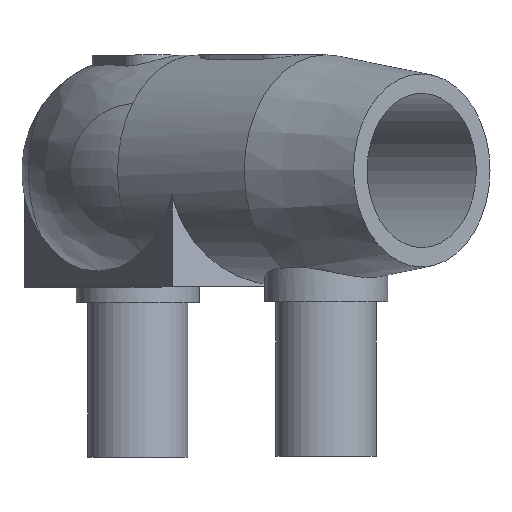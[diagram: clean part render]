
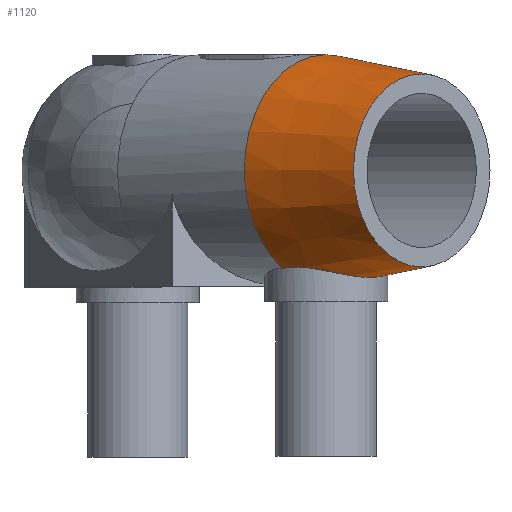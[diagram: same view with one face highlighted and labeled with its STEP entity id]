
A CAD part, top view. The second image highlights one B-rep face of the part: STEP entity #1120.
In plain terms, the highlighted conical face has half-angle 8.13 degrees and reference radius 15 mm.
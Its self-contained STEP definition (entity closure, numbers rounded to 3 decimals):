
#21=CONICAL_SURFACE('',#1238,15.,0.142);
#158=CIRCLE('',#1189,15.);
#165=CIRCLE('',#1211,12.5);
#386=ORIENTED_EDGE('',*,*,#627,.F.);
#387=ORIENTED_EDGE('',*,*,#579,.F.);
#388=ORIENTED_EDGE('',*,*,#630,.T.);
#579=EDGE_CURVE('',#736,#737,#158,.T.);
#627=EDGE_CURVE('',#737,#736,#867,.T.);
#630=EDGE_CURVE('',#777,#777,#165,.T.);
#736=VERTEX_POINT('',#2227);
#737=VERTEX_POINT('',#2229);
#777=VERTEX_POINT('',#2712);
#867=B_SPLINE_CURVE_WITH_KNOTS('',3,(#2695,#2696,#2697,#2698,#2699,#2700,
#2701,#2702,#2703,#2704,#2705),.UNSPECIFIED.,.F.,.F.,(4,1,1,1,1,1,1,1,4),
(0.007,0.01,0.014,0.017,
0.02,0.023,0.026,0.029,
0.032),.UNSPECIFIED.);
#920=EDGE_LOOP('',(#386,#387));
#921=EDGE_LOOP('',(#388));
#1027=FACE_BOUND('',#920,.T.);
#1028=FACE_BOUND('',#921,.T.);
#1120=ADVANCED_FACE('',(#1027,#1028),#21,.T.);
#1189=AXIS2_PLACEMENT_3D('',#2228,#1324,#1325);
#1211=AXIS2_PLACEMENT_3D('',#2711,#1380,#1381);
#1238=AXIS2_PLACEMENT_3D('',#2823,#1434,#1435);
#1324=DIRECTION('',(-0.707,0.,-0.707));
#1325=DIRECTION('',(-0.707,0.,0.707));
#1380=DIRECTION('',(-0.707,0.,-0.707));
#1381=DIRECTION('',(-0.707,0.,0.707));
#1434=DIRECTION('',(-0.707,0.,-0.707));
#1435=DIRECTION('',(-0.707,0.,0.707));
#2227=CARTESIAN_POINT('',(18.738,-12.689,30.052));
#2228=CARTESIAN_POINT('',(24.395,0.,24.395));
#2229=CARTESIAN_POINT('',(30.052,-12.689,18.738));
#2695=CARTESIAN_POINT('',(30.052,-12.689,18.738));
#2696=CARTESIAN_POINT('',(30.786,-12.513,19.472));
#2697=CARTESIAN_POINT('',(31.994,-12.434,21.277));
#2698=CARTESIAN_POINT('',(32.598,-13.004,24.421));
#2699=CARTESIAN_POINT('',(31.984,-13.664,27.517));
#2700=CARTESIAN_POINT('',(30.203,-13.954,30.203));
#2701=CARTESIAN_POINT('',(27.512,-13.664,31.988));
#2702=CARTESIAN_POINT('',(24.404,-13.001,32.598));
#2703=CARTESIAN_POINT('',(21.276,-12.435,31.992));
#2704=CARTESIAN_POINT('',(19.474,-12.513,30.787));
#2705=CARTESIAN_POINT('',(18.738,-12.689,30.052));
#2711=CARTESIAN_POINT('',(36.77,0.,36.77));
#2712=CARTESIAN_POINT('',(27.931,0.,45.608));
#2823=CARTESIAN_POINT('',(24.395,0.,24.395));
